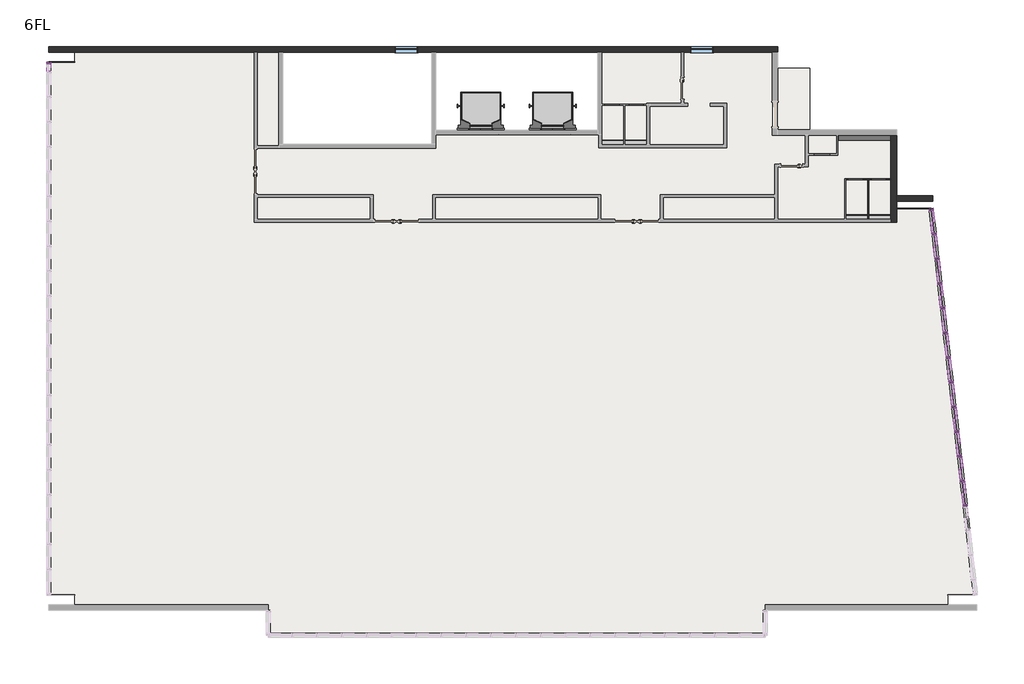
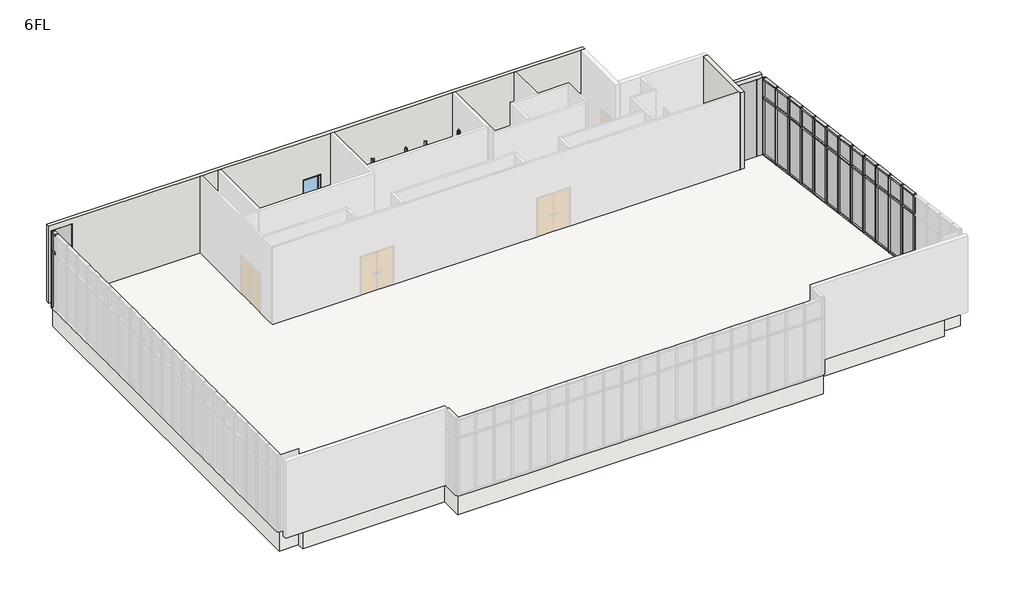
# One storey, part 4 of 4: 67 members, 28 plates, 8 proxies, 5 walls, 4 flow terminals, 2 slabs, 2 windows.
"""IFC4 building model written with IfcOpenShell, lengths in millimetres."""

from ifc_helpers import new_model, si_unit, frame, origin, place, context, project, spatial, polyline, outline, extrude, faceted_brep, transform, mapped, element, save
from components import specialty_equipment_d755c605, d150_h1500_9903e80e, w550_h2000_5054dc5e, w600_h2000_381ad4ff, flow_terminal_205c4ddb, member_70x150_cdd4dcf9, member_70x150_66cf63de, member_70x150_26475b18, member_70x150_ad4265bc, member_70x150_1b280ac3, member_70x150_76429c73, member_70x150_a15bb337, member_70x150_da24903b, plate_d1366ea1, plate_ab860a3c, plate_97be90fd, plate_28587fd3, plate_396bcf3c, w800_h1100_2b598eca

model = new_model("IFC4")

# Units and contexts
model_context = context("Model", 3, world=origin())
ifc_project = project(units=[si_unit("LENGTHUNIT", "METRE", prefix="MILLI")], contexts=[model_context])

# Site, building, storey
site = spatial("IfcSite", under=ifc_project)
building = spatial("IfcBuilding", under=site)
storey = spatial("IfcBuildingStorey", under=building, Name="6FL", Elevation=20600.0)

# Proxies
placement = place(None, origin())
specialty_equipment_shape = specialty_equipment_d755c605(model_context)
element("IfcBuildingElementProxy", 1, Name="エレベーター : 9人乗", ObjectType="エレベーター : 9人乗", at=placement, inside=storey, context=model_context, shape_type="MappedRepresentation", body=[
    mapped(specialty_equipment_shape, transform((-11220.9784025, 13649.6868987, 20600.0), x_axis=(1.0, 0.0, 0.0), y_axis=(0.0, 1.0, 0.0), z_axis=(0.0, 0.0, 1.0))),
])
element("IfcBuildingElementProxy", 2, Name="エレベーター : 9人乗", ObjectType="エレベーター : 9人乗", at=placement, inside=storey, context=model_context, shape_type="MappedRepresentation", body=[
    mapped(specialty_equipment_shape, transform((-13820.9784025, 13649.6868987, 20600.0), x_axis=(1.0, 0.0, 0.0), y_axis=(0.0, 1.0, 0.0), z_axis=(0.0, 0.0, 1.0))),
])
d150_h1500_shape = d150_h1500_9903e80e(model_context)
element("IfcBuildingElementProxy", 3, Name="r ライニング : D150 H1500", ObjectType="r ライニング : D150 H1500", at=placement, inside=storey, context=model_context, shape_type="MappedRepresentation", body=[
    mapped(d150_h1500_shape, transform((-736.1600971, 13521.6596024, 20600.0), x_axis=(1.0, 0.0, 0.0), y_axis=(0.0, 1.0, 0.0), z_axis=(0.0, 0.0, 1.0))),
])
w550_h2000_shape = w550_h2000_5054dc5e(model_context)
element("IfcBuildingElementProxy", 4, Name="r トイレブース扉 : W550 H2000", ObjectType="r トイレブース扉 : W550 H2000", at=placement, inside=storey, context=model_context, shape_type="MappedRepresentation", body=[
    mapped(w550_h2000_shape, transform((-8823.4784025, 14649.6868987, 20600.0), x_axis=(-1.0, 0.0, 0.0), y_axis=(0.0, -1.0, 0.0), z_axis=(0.0, 0.0, 1.0))),
])
element("IfcBuildingElementProxy", 5, Name="r トイレブース扉 : W550 H2000", ObjectType="r トイレブース扉 : W550 H2000", at=placement, inside=storey, context=model_context, shape_type="MappedRepresentation", body=[
    mapped(w550_h2000_shape, transform((-7940.9784025, 14649.6868987, 20600.0), x_axis=(-1.0, 0.0, 0.0), y_axis=(0.0, -1.0, 0.0), z_axis=(0.0, 0.0, 1.0))),
])
element("IfcBuildingElementProxy", 6, Name="r トイレブース扉 : W550 H2000", ObjectType="r トイレブース扉 : W550 H2000", at=placement, inside=storey, context=model_context, shape_type="MappedRepresentation", body=[
    mapped(w550_h2000_shape, transform((-5.9784025, 11949.6868987, 20600.0), x_axis=(-1.0, 0.0, 0.0), y_axis=(0.0, -1.0, 0.0), z_axis=(0.0, 0.0, 1.0))),
])
element("IfcBuildingElementProxy", 7, Name="r トイレブース扉 : W550 H2000", ObjectType="r トイレブース扉 : W550 H2000", at=placement, inside=storey, context=model_context, shape_type="MappedRepresentation", body=[
    mapped(w550_h2000_shape, transform((834.0215975, 11949.6868987, 20600.0), x_axis=(-1.0, 0.0, 0.0), y_axis=(0.0, -1.0, 0.0), z_axis=(0.0, 0.0, 1.0))),
])
w600_h2000_shape = w600_h2000_381ad4ff(model_context)
element("IfcBuildingElementProxy", 8, Name="r トイレブース扉 : W600 H2000", ObjectType="r トイレブース扉 : W600 H2000", at=placement, inside=storey, context=model_context, shape_type="MappedRepresentation", body=[
    mapped(w600_h2000_shape, transform((-1220.9784025, 12849.6868987, 20600.0), x_axis=(-1.0, 0.0, 0.0), y_axis=(0.0, -1.0, 0.0), z_axis=(0.0, 0.0, 1.0))),
])

# Flow terminals
flow_terminal_shape = flow_terminal_205c4ddb(model_context)
element("IfcFlowTerminal", 9, ObjectType="洋式便器 - ライニング付 - 2D : タイプ 1", at=placement, inside=storey, context=model_context, shape_type="MappedRepresentation", body=[
    mapped(flow_terminal_shape, transform((-9045.9784025, 13149.6868987, 20600.0), x_axis=(1.0, 0.0, 0.0), y_axis=(0.0, 1.0, 0.0), z_axis=(0.0, 0.0, 1.0))),
])
element("IfcFlowTerminal", 10, ObjectType="洋式便器 - ライニング付 - 2D : タイプ 1", at=placement, inside=storey, context=model_context, shape_type="MappedRepresentation", body=[
    mapped(flow_terminal_shape, transform((-8205.9784025, 13149.6868987, 20600.0), x_axis=(1.0, 0.0, 0.0), y_axis=(0.0, 1.0, 0.0), z_axis=(0.0, 0.0, 1.0))),
])
element("IfcFlowTerminal", 11, ObjectType="洋式便器 - ライニング付 - 2D : タイプ 1", at=placement, inside=storey, context=model_context, shape_type="MappedRepresentation", body=[
    mapped(flow_terminal_shape, transform((-210.9784025, 10449.6868987, 20600.0), x_axis=(1.0, 0.0, 0.0), y_axis=(0.0, 1.0, 0.0), z_axis=(0.0, 0.0, 1.0))),
])
element("IfcFlowTerminal", 12, ObjectType="洋式便器 - ライニング付 - 2D : タイプ 1", at=placement, inside=storey, context=model_context, shape_type="MappedRepresentation", body=[
    mapped(flow_terminal_shape, transform((629.0215975, 10449.6868987, 20600.0), x_axis=(1.0, 0.0, 0.0), y_axis=(0.0, 1.0, 0.0), z_axis=(0.0, 0.0, 1.0))),
])

# Members
member_70x150_shape = member_70x150_cdd4dcf9(model_context)
element("IfcMember", 13, ObjectType="長方形のマリオン : 70x150", at=placement, inside=storey, context=model_context, shape_type="MappedRepresentation", body=[
    mapped(member_70x150_shape, transform((3840.8083387, 134.7603905, 20600.0), x_axis=(0.11354659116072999, -0.9935326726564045, 0.0), y_axis=(-0.9935326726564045, -0.11354659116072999, 0.0), z_axis=(0.0, 0.0, -1.0))),
])
element("IfcMember", 14, ObjectType="長方形のマリオン : 70x150", at=placement, inside=storey, context=model_context, shape_type="MappedRepresentation", body=[
    mapped(member_70x150_shape, transform((3738.6164066, 1028.9397959, 20600.0), x_axis=(0.11354659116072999, -0.9935326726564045, 0.0), y_axis=(-0.9935326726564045, -0.11354659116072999, 0.0), z_axis=(0.0, 0.0, -1.0))),
])
element("IfcMember", 15, ObjectType="長方形のマリオン : 70x150", at=placement, inside=storey, context=model_context, shape_type="MappedRepresentation", body=[
    mapped(member_70x150_shape, transform((3636.4244746, 1923.1192013, 20600.0), x_axis=(0.11354659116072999, -0.9935326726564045, 0.0), y_axis=(-0.9935326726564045, -0.11354659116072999, 0.0), z_axis=(0.0, 0.0, -1.0))),
])
element("IfcMember", 16, ObjectType="長方形のマリオン : 70x150", at=placement, inside=storey, context=model_context, shape_type="MappedRepresentation", body=[
    mapped(member_70x150_shape, transform((3534.2325425, 2817.2986066, 20600.0), x_axis=(0.11354659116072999, -0.9935326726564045, 0.0), y_axis=(-0.9935326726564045, -0.11354659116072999, 0.0), z_axis=(0.0, 0.0, -1.0))),
])
element("IfcMember", 17, ObjectType="長方形のマリオン : 70x150", at=placement, inside=storey, context=model_context, shape_type="MappedRepresentation", body=[
    mapped(member_70x150_shape, transform((3432.0406105, 3711.478012, 20600.0), x_axis=(0.11354659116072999, -0.9935326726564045, 0.0), y_axis=(-0.9935326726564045, -0.11354659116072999, 0.0), z_axis=(0.0, 0.0, -1.0))),
])
element("IfcMember", 18, ObjectType="長方形のマリオン : 70x150", at=placement, inside=storey, context=model_context, shape_type="MappedRepresentation", body=[
    mapped(member_70x150_shape, transform((3329.8486784, 4605.6574174, 20600.0), x_axis=(0.11354659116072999, -0.9935326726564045, 0.0), y_axis=(-0.9935326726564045, -0.11354659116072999, 0.0), z_axis=(0.0, 0.0, -1.0))),
])
element("IfcMember", 19, ObjectType="長方形のマリオン : 70x150", at=placement, inside=storey, context=model_context, shape_type="MappedRepresentation", body=[
    mapped(member_70x150_shape, transform((3227.6567464, 5499.8368228, 20600.0), x_axis=(0.11354659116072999, -0.9935326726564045, 0.0), y_axis=(-0.9935326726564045, -0.11354659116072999, 0.0), z_axis=(0.0, 0.0, -1.0))),
])
element("IfcMember", 20, ObjectType="長方形のマリオン : 70x150", at=placement, inside=storey, context=model_context, shape_type="MappedRepresentation", body=[
    mapped(member_70x150_shape, transform((3125.4648143, 6394.0162282, 20600.0), x_axis=(0.11354659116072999, -0.9935326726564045, 0.0), y_axis=(-0.9935326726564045, -0.11354659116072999, 0.0), z_axis=(0.0, 0.0, -1.0))),
])
element("IfcMember", 21, ObjectType="長方形のマリオン : 70x150", at=placement, inside=storey, context=model_context, shape_type="MappedRepresentation", body=[
    mapped(member_70x150_shape, transform((3023.2728823, 7288.1956336, 20600.0), x_axis=(0.11354659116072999, -0.9935326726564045, 0.0), y_axis=(-0.9935326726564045, -0.11354659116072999, 0.0), z_axis=(0.0, 0.0, -1.0))),
])
element("IfcMember", 22, ObjectType="長方形のマリオン : 70x150", at=placement, inside=storey, context=model_context, shape_type="MappedRepresentation", body=[
    mapped(member_70x150_shape, transform((2921.0809503, 8182.375039, 20600.0), x_axis=(0.11354659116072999, -0.9935326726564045, 0.0), y_axis=(-0.9935326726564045, -0.11354659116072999, 0.0), z_axis=(0.0, 0.0, -1.0))),
])
element("IfcMember", 23, ObjectType="長方形のマリオン : 70x150", at=placement, inside=storey, context=model_context, shape_type="MappedRepresentation", body=[
    mapped(member_70x150_shape, transform((2818.8890182, 9076.5544444, 20600.0), x_axis=(0.11354659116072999, -0.9935326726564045, 0.0), y_axis=(-0.9935326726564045, -0.11354659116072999, 0.0), z_axis=(0.0, 0.0, -1.0))),
])
element("IfcMember", 24, ObjectType="長方形のマリオン : 70x150", at=placement, inside=storey, context=model_context, shape_type="MappedRepresentation", body=[
    mapped(member_70x150_shape, transform((2716.6970862, 9970.7338498, 20600.0), x_axis=(0.11354659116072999, -0.9935326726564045, 0.0), y_axis=(-0.9935326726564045, -0.11354659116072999, 0.0), z_axis=(0.0, 0.0, -1.0))),
])
member_70x150_2_shape = member_70x150_66cf63de(model_context)
element("IfcMember", 25, ObjectType="長方形のマリオン : 70x150", at=placement, inside=storey, context=model_context, shape_type="MappedRepresentation", body=[
    mapped(member_70x150_2_shape, transform((2618.4792848, 10830.1396116, 20600.0), x_axis=(0.0, 0.0, -1.0), y_axis=(-0.9935326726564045, -0.11354659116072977, 0.0), z_axis=(-0.11354659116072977, 0.9935326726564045, 0.0))),
])
element("IfcMember", 26, ObjectType="長方形のマリオン : 70x150", at=placement, inside=storey, context=model_context, shape_type="MappedRepresentation", body=[
    mapped(member_70x150_2_shape, transform((3844.7824693, 99.9867469, 20600.0), x_axis=(0.0, 0.0, -1.0), y_axis=(-0.9935326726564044, -0.11354659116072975, 0.0), z_axis=(-0.11354659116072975, 0.9935326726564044, 0.0))),
])
element("IfcMember", 27, ObjectType="長方形のマリオン : 70x150", at=placement, inside=storey, context=model_context, shape_type="MappedRepresentation", body=[
    mapped(member_70x150_2_shape, transform((3742.5905373, 994.1661523, 20600.0), x_axis=(0.0, 0.0, -1.0), y_axis=(-0.9935326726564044, -0.1135465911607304, 0.0), z_axis=(-0.11354659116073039, 0.9935326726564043, 0.0))),
])
element("IfcMember", 28, ObjectType="長方形のマリオン : 70x150", at=placement, inside=storey, context=model_context, shape_type="MappedRepresentation", body=[
    mapped(member_70x150_2_shape, transform((3640.3986053, 1888.3455577, 20600.0), x_axis=(0.0, 0.0, -1.0), y_axis=(-0.9935326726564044, -0.1135465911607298, 0.0), z_axis=(-0.1135465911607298, 0.9935326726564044, 0.0))),
])
element("IfcMember", 29, ObjectType="長方形のマリオン : 70x150", at=placement, inside=storey, context=model_context, shape_type="MappedRepresentation", body=[
    mapped(member_70x150_2_shape, transform((3538.2066732, 2782.5249631, 20600.0), x_axis=(0.0, 0.0, -1.0), y_axis=(-0.9935326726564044, -0.1135465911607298, 0.0), z_axis=(-0.1135465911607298, 0.9935326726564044, 0.0))),
])
element("IfcMember", 30, ObjectType="長方形のマリオン : 70x150", at=placement, inside=storey, context=model_context, shape_type="MappedRepresentation", body=[
    mapped(member_70x150_2_shape, transform((3436.0147412, 3676.7043685, 20600.0), x_axis=(0.0, 0.0, -1.0), y_axis=(-0.9935326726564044, -0.11354659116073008, 0.0), z_axis=(-0.11354659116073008, 0.9935326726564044, 0.0))),
])
element("IfcMember", 31, ObjectType="長方形のマリオン : 70x150", at=placement, inside=storey, context=model_context, shape_type="MappedRepresentation", body=[
    mapped(member_70x150_2_shape, transform((3333.8228091, 4570.8837739, 20600.0), x_axis=(0.0, 0.0, -1.0), y_axis=(-0.9935326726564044, -0.11354659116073, 0.0), z_axis=(-0.11354659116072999, 0.9935326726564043, 0.0))),
])
element("IfcMember", 32, ObjectType="長方形のマリオン : 70x150", at=placement, inside=storey, context=model_context, shape_type="MappedRepresentation", body=[
    mapped(member_70x150_2_shape, transform((3231.6308771, 5465.0631793, 20600.0), x_axis=(0.0, 0.0, -1.0), y_axis=(-0.9935326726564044, -0.11354659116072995, 0.0), z_axis=(-0.11354659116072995, 0.9935326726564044, 0.0))),
])
element("IfcMember", 33, ObjectType="長方形のマリオン : 70x150", at=placement, inside=storey, context=model_context, shape_type="MappedRepresentation", body=[
    mapped(member_70x150_2_shape, transform((3129.438945, 6359.2425847, 20600.0), x_axis=(0.0, 0.0, -1.0), y_axis=(-0.9935326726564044, -0.11354659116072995, 0.0), z_axis=(-0.11354659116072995, 0.9935326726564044, 0.0))),
])
element("IfcMember", 34, ObjectType="長方形のマリオン : 70x150", at=placement, inside=storey, context=model_context, shape_type="MappedRepresentation", body=[
    mapped(member_70x150_2_shape, transform((3027.247013, 7253.4219901, 20600.0), x_axis=(0.0, 0.0, -1.0), y_axis=(-0.9935326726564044, -0.11354659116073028, 0.0), z_axis=(-0.11354659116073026, 0.9935326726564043, 0.0))),
])
element("IfcMember", 35, ObjectType="長方形のマリオン : 70x150", at=placement, inside=storey, context=model_context, shape_type="MappedRepresentation", body=[
    mapped(member_70x150_2_shape, transform((2925.0550809, 8147.6013954, 20600.0), x_axis=(0.0, 0.0, -1.0), y_axis=(-0.9935326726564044, -0.1135465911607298, 0.0), z_axis=(-0.1135465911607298, 0.9935326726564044, 0.0))),
])
element("IfcMember", 36, ObjectType="長方形のマリオン : 70x150", at=placement, inside=storey, context=model_context, shape_type="MappedRepresentation", body=[
    mapped(member_70x150_2_shape, transform((2822.8631489, 9041.7808008, 20600.0), x_axis=(0.0, 0.0, -1.0), y_axis=(-0.9935326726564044, -0.11354659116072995, 0.0), z_axis=(-0.11354659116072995, 0.9935326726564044, 0.0))),
])
element("IfcMember", 37, ObjectType="長方形のマリオン : 70x150", at=placement, inside=storey, context=model_context, shape_type="MappedRepresentation", body=[
    mapped(member_70x150_2_shape, transform((2720.6712169, 9935.9602062, 20600.0), x_axis=(0.0, 0.0, -1.0), y_axis=(-0.9935326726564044, -0.11354659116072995, 0.0), z_axis=(-0.11354659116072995, 0.9935326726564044, 0.0))),
])
element("IfcMember", 38, ObjectType="長方形のマリオン : 70x150", at=placement, inside=storey, context=model_context, shape_type="MappedRepresentation", body=[
    mapped(member_70x150_2_shape, transform((3836.834208, 169.534034, 24600.0), x_axis=(0.0, 0.0, 1.0), y_axis=(-0.9935326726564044, -0.11354659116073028, 0.0), z_axis=(0.11354659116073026, -0.9935326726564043, 0.0))),
])
element("IfcMember", 39, ObjectType="長方形のマリオン : 70x150", at=placement, inside=storey, context=model_context, shape_type="MappedRepresentation", body=[
    mapped(member_70x150_2_shape, transform((3734.6422759, 1063.7134394, 24600.0), x_axis=(0.0, 0.0, 1.0), y_axis=(-0.9935326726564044, -0.11354659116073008, 0.0), z_axis=(0.11354659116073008, -0.9935326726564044, 0.0))),
])
element("IfcMember", 40, ObjectType="長方形のマリオン : 70x150", at=placement, inside=storey, context=model_context, shape_type="MappedRepresentation", body=[
    mapped(member_70x150_2_shape, transform((3632.4503439, 1957.8928448, 24600.0), x_axis=(0.0, 0.0, 1.0), y_axis=(-0.9935326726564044, -0.11354659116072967, 0.0), z_axis=(0.11354659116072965, -0.9935326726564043, 0.0))),
])
element("IfcMember", 41, ObjectType="長方形のマリオン : 70x150", at=placement, inside=storey, context=model_context, shape_type="MappedRepresentation", body=[
    mapped(member_70x150_2_shape, transform((3530.2584118, 2852.0722502, 24600.0), x_axis=(0.0, 0.0, 1.0), y_axis=(-0.9935326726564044, -0.11354659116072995, 0.0), z_axis=(0.11354659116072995, -0.9935326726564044, 0.0))),
])
element("IfcMember", 42, ObjectType="長方形のマリオン : 70x150", at=placement, inside=storey, context=model_context, shape_type="MappedRepresentation", body=[
    mapped(member_70x150_2_shape, transform((3428.0664798, 3746.2516556, 24600.0), x_axis=(0.0, 0.0, 1.0), y_axis=(-0.9935326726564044, -0.11354659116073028, 0.0), z_axis=(0.11354659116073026, -0.9935326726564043, 0.0))),
])
element("IfcMember", 43, ObjectType="長方形のマリオン : 70x150", at=placement, inside=storey, context=model_context, shape_type="MappedRepresentation", body=[
    mapped(member_70x150_2_shape, transform((3325.8745477, 4640.431061, 24600.0), x_axis=(0.0, 0.0, 1.0), y_axis=(-0.9935326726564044, -0.11354659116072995, 0.0), z_axis=(0.11354659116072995, -0.9935326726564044, 0.0))),
])
element("IfcMember", 44, ObjectType="長方形のマリオン : 70x150", at=placement, inside=storey, context=model_context, shape_type="MappedRepresentation", body=[
    mapped(member_70x150_2_shape, transform((3223.6826157, 5534.6104664, 24600.0), x_axis=(0.0, 0.0, 1.0), y_axis=(-0.9935326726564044, -0.11354659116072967, 0.0), z_axis=(0.11354659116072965, -0.9935326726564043, 0.0))),
])
element("IfcMember", 45, ObjectType="長方形のマリオン : 70x150", at=placement, inside=storey, context=model_context, shape_type="MappedRepresentation", body=[
    mapped(member_70x150_2_shape, transform((3121.4906836, 6428.7898717, 24600.0), x_axis=(0.0, 0.0, 1.0), y_axis=(-0.9935326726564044, -0.1135465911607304, 0.0), z_axis=(0.11354659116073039, -0.9935326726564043, 0.0))),
])
element("IfcMember", 46, ObjectType="長方形のマリオン : 70x150", at=placement, inside=storey, context=model_context, shape_type="MappedRepresentation", body=[
    mapped(member_70x150_2_shape, transform((3019.2987516, 7322.9692771, 24600.0), x_axis=(0.0, 0.0, 1.0), y_axis=(-0.9935326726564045, -0.11354659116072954, 0.0), z_axis=(0.11354659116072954, -0.9935326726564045, 0.0))),
])
element("IfcMember", 47, ObjectType="長方形のマリオン : 70x150", at=placement, inside=storey, context=model_context, shape_type="MappedRepresentation", body=[
    mapped(member_70x150_2_shape, transform((2917.1068196, 8217.1486825, 24600.0), x_axis=(0.0, 0.0, 1.0), y_axis=(-0.9935326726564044, -0.11354659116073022, 0.0), z_axis=(0.11354659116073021, -0.9935326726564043, 0.0))),
])
element("IfcMember", 48, ObjectType="長方形のマリオン : 70x150", at=placement, inside=storey, context=model_context, shape_type="MappedRepresentation", body=[
    mapped(member_70x150_2_shape, transform((2814.9148875, 9111.3280879, 24600.0), x_axis=(0.0, 0.0, 1.0), y_axis=(-0.9935326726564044, -0.11354659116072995, 0.0), z_axis=(0.11354659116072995, -0.9935326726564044, 0.0))),
])
element("IfcMember", 49, ObjectType="長方形のマリオン : 70x150", at=placement, inside=storey, context=model_context, shape_type="MappedRepresentation", body=[
    mapped(member_70x150_2_shape, transform((2712.7229555, 10005.5074933, 24600.0), x_axis=(0.0, 0.0, 1.0), y_axis=(-0.9935326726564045, -0.11354659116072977, 0.0), z_axis=(0.11354659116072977, -0.9935326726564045, 0.0))),
])
member_70x150_3_shape = member_70x150_26475b18(model_context)
element("IfcMember", 50, ObjectType="長方形のマリオン : 70x150", at=placement, inside=storey, context=model_context, shape_type="MappedRepresentation", body=[
    mapped(member_70x150_3_shape, transform((3534.2325425, 2817.2986066, 23600.0), x_axis=(0.11354659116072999, -0.9935326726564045, 0.0), y_axis=(-0.9935326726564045, -0.11354659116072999, 0.0), z_axis=(0.0, 0.0, -1.0))),
])
element("IfcMember", 51, ObjectType="長方形のマリオン : 70x150", at=placement, inside=storey, context=model_context, shape_type="MappedRepresentation", body=[
    mapped(member_70x150_3_shape, transform((3636.4244746, 1923.1192013, 23600.0), x_axis=(0.11354659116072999, -0.9935326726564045, 0.0), y_axis=(-0.9935326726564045, -0.11354659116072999, 0.0), z_axis=(0.0, 0.0, -1.0))),
])
element("IfcMember", 52, ObjectType="長方形のマリオン : 70x150", at=placement, inside=storey, context=model_context, shape_type="MappedRepresentation", body=[
    mapped(member_70x150_3_shape, transform((3738.6164066, 1028.9397959, 23600.0), x_axis=(0.11354659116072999, -0.9935326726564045, 0.0), y_axis=(-0.9935326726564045, -0.11354659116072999, 0.0), z_axis=(0.0, 0.0, -1.0))),
])
element("IfcMember", 53, ObjectType="長方形のマリオン : 70x150", at=placement, inside=storey, context=model_context, shape_type="MappedRepresentation", body=[
    mapped(member_70x150_3_shape, transform((3840.8083387, 134.7603905, 23600.0), x_axis=(0.11354659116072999, -0.9935326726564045, 0.0), y_axis=(-0.9935326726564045, -0.11354659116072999, 0.0), z_axis=(0.0, 0.0, -1.0))),
])
element("IfcMember", 54, ObjectType="長方形のマリオン : 70x150", at=placement, inside=storey, context=model_context, shape_type="MappedRepresentation", body=[
    mapped(member_70x150_3_shape, transform((3432.0406105, 3711.478012, 23600.0), x_axis=(0.11354659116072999, -0.9935326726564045, 0.0), y_axis=(-0.9935326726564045, -0.11354659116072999, 0.0), z_axis=(0.0, 0.0, -1.0))),
])
element("IfcMember", 55, ObjectType="長方形のマリオン : 70x150", at=placement, inside=storey, context=model_context, shape_type="MappedRepresentation", body=[
    mapped(member_70x150_3_shape, transform((3329.8486784, 4605.6574174, 23600.0), x_axis=(0.11354659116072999, -0.9935326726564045, 0.0), y_axis=(-0.9935326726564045, -0.11354659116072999, 0.0), z_axis=(0.0, 0.0, -1.0))),
])
element("IfcMember", 56, ObjectType="長方形のマリオン : 70x150", at=placement, inside=storey, context=model_context, shape_type="MappedRepresentation", body=[
    mapped(member_70x150_3_shape, transform((3227.6567464, 5499.8368228, 23600.0), x_axis=(0.11354659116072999, -0.9935326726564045, 0.0), y_axis=(-0.9935326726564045, -0.11354659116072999, 0.0), z_axis=(0.0, 0.0, -1.0))),
])
element("IfcMember", 57, ObjectType="長方形のマリオン : 70x150", at=placement, inside=storey, context=model_context, shape_type="MappedRepresentation", body=[
    mapped(member_70x150_3_shape, transform((3125.4648143, 6394.0162282, 23600.0), x_axis=(0.11354659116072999, -0.9935326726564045, 0.0), y_axis=(-0.9935326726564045, -0.11354659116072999, 0.0), z_axis=(0.0, 0.0, -1.0))),
])
element("IfcMember", 58, ObjectType="長方形のマリオン : 70x150", at=placement, inside=storey, context=model_context, shape_type="MappedRepresentation", body=[
    mapped(member_70x150_3_shape, transform((3023.2728823, 7288.1956336, 23600.0), x_axis=(0.11354659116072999, -0.9935326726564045, 0.0), y_axis=(-0.9935326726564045, -0.11354659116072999, 0.0), z_axis=(0.0, 0.0, -1.0))),
])
element("IfcMember", 59, ObjectType="長方形のマリオン : 70x150", at=placement, inside=storey, context=model_context, shape_type="MappedRepresentation", body=[
    mapped(member_70x150_3_shape, transform((2921.0809503, 8182.375039, 23600.0), x_axis=(0.11354659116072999, -0.9935326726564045, 0.0), y_axis=(-0.9935326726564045, -0.11354659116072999, 0.0), z_axis=(0.0, 0.0, -1.0))),
])
element("IfcMember", 60, ObjectType="長方形のマリオン : 70x150", at=placement, inside=storey, context=model_context, shape_type="MappedRepresentation", body=[
    mapped(member_70x150_3_shape, transform((2818.8890182, 9076.5544444, 23600.0), x_axis=(0.11354659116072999, -0.9935326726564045, 0.0), y_axis=(-0.9935326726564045, -0.11354659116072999, 0.0), z_axis=(0.0, 0.0, -1.0))),
])
element("IfcMember", 61, ObjectType="長方形のマリオン : 70x150", at=placement, inside=storey, context=model_context, shape_type="MappedRepresentation", body=[
    mapped(member_70x150_3_shape, transform((2716.6970862, 9970.7338498, 23600.0), x_axis=(0.11354659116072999, -0.9935326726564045, 0.0), y_axis=(-0.9935326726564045, -0.11354659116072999, 0.0), z_axis=(0.0, 0.0, -1.0))),
])
member_70x150_4_shape = member_70x150_ad4265bc(model_context)
element("IfcMember", 62, ObjectType="長方形のマリオン : 70x150", at=placement, inside=storey, context=model_context, shape_type="MappedRepresentation", body=[
    mapped(member_70x150_4_shape, transform((3223.6826157, 5534.6104664, 23600.0), x_axis=(0.0, 0.0, 1.0), y_axis=(-0.9935326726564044, -0.11354659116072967, 0.0), z_axis=(0.11354659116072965, -0.9935326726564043, 0.0))),
])
element("IfcMember", 63, ObjectType="長方形のマリオン : 70x150", at=placement, inside=storey, context=model_context, shape_type="MappedRepresentation", body=[
    mapped(member_70x150_4_shape, transform((3121.4906836, 6428.7898717, 23600.0), x_axis=(0.0, 0.0, 1.0), y_axis=(-0.9935326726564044, -0.1135465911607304, 0.0), z_axis=(0.11354659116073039, -0.9935326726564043, 0.0))),
])
element("IfcMember", 64, ObjectType="長方形のマリオン : 70x150", at=placement, inside=storey, context=model_context, shape_type="MappedRepresentation", body=[
    mapped(member_70x150_4_shape, transform((3019.2987516, 7322.9692771, 23600.0), x_axis=(0.0, 0.0, 1.0), y_axis=(-0.9935326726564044, -0.11354659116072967, 0.0), z_axis=(0.11354659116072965, -0.9935326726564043, 0.0))),
])
element("IfcMember", 65, ObjectType="長方形のマリオン : 70x150", at=placement, inside=storey, context=model_context, shape_type="MappedRepresentation", body=[
    mapped(member_70x150_4_shape, transform((2917.1068196, 8217.1486825, 23600.0), x_axis=(0.0, 0.0, 1.0), y_axis=(-0.9935326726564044, -0.11354659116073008, 0.0), z_axis=(0.11354659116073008, -0.9935326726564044, 0.0))),
])
element("IfcMember", 66, ObjectType="長方形のマリオン : 70x150", at=placement, inside=storey, context=model_context, shape_type="MappedRepresentation", body=[
    mapped(member_70x150_4_shape, transform((2814.9148875, 9111.3280879, 23600.0), x_axis=(0.0, 0.0, 1.0), y_axis=(-0.9935326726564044, -0.11354659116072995, 0.0), z_axis=(0.11354659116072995, -0.9935326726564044, 0.0))),
])
element("IfcMember", 67, ObjectType="長方形のマリオン : 70x150", at=placement, inside=storey, context=model_context, shape_type="MappedRepresentation", body=[
    mapped(member_70x150_4_shape, transform((2712.7229555, 10005.5074933, 23600.0), x_axis=(0.0, 0.0, 1.0), y_axis=(-0.9935326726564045, -0.11354659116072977, 0.0), z_axis=(0.11354659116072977, -0.9935326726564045, 0.0))),
])
element("IfcMember", 68, ObjectType="長方形のマリオン : 70x150", at=placement, inside=storey, context=model_context, shape_type="MappedRepresentation", body=[
    mapped(member_70x150_4_shape, transform((3836.834208, 169.534034, 23600.0), x_axis=(0.0, 0.0, 1.0), y_axis=(-0.9935326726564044, -0.11354659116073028, 0.0), z_axis=(0.11354659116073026, -0.9935326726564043, 0.0))),
])
element("IfcMember", 69, ObjectType="長方形のマリオン : 70x150", at=placement, inside=storey, context=model_context, shape_type="MappedRepresentation", body=[
    mapped(member_70x150_4_shape, transform((3734.6422759, 1063.7134394, 23600.0), x_axis=(0.0, 0.0, 1.0), y_axis=(-0.9935326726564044, -0.11354659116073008, 0.0), z_axis=(0.11354659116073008, -0.9935326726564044, 0.0))),
])
element("IfcMember", 70, ObjectType="長方形のマリオン : 70x150", at=placement, inside=storey, context=model_context, shape_type="MappedRepresentation", body=[
    mapped(member_70x150_4_shape, transform((3632.4503439, 1957.8928448, 23600.0), x_axis=(0.0, 0.0, 1.0), y_axis=(-0.9935326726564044, -0.11354659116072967, 0.0), z_axis=(0.11354659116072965, -0.9935326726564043, 0.0))),
])
element("IfcMember", 71, ObjectType="長方形のマリオン : 70x150", at=placement, inside=storey, context=model_context, shape_type="MappedRepresentation", body=[
    mapped(member_70x150_4_shape, transform((3530.2584118, 2852.0722502, 23600.0), x_axis=(0.0, 0.0, 1.0), y_axis=(-0.9935326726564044, -0.11354659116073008, 0.0), z_axis=(0.11354659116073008, -0.9935326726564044, 0.0))),
])
element("IfcMember", 72, ObjectType="長方形のマリオン : 70x150", at=placement, inside=storey, context=model_context, shape_type="MappedRepresentation", body=[
    mapped(member_70x150_4_shape, transform((3428.0664798, 3746.2516556, 23600.0), x_axis=(0.0, 0.0, 1.0), y_axis=(-0.9935326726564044, -0.11354659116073, 0.0), z_axis=(0.11354659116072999, -0.9935326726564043, 0.0))),
])
element("IfcMember", 73, ObjectType="長方形のマリオン : 70x150", at=placement, inside=storey, context=model_context, shape_type="MappedRepresentation", body=[
    mapped(member_70x150_4_shape, transform((3325.8745477, 4640.431061, 23600.0), x_axis=(0.0, 0.0, 1.0), y_axis=(-0.9935326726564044, -0.11354659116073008, 0.0), z_axis=(0.11354659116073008, -0.9935326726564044, 0.0))),
])
member_70x150_5_shape = member_70x150_1b280ac3(model_context)
element("IfcMember", 74, ObjectType="長方形のマリオン : 70x150", at=placement, inside=storey, context=model_context, shape_type="MappedRepresentation", body=[
    mapped(member_70x150_5_shape, transform((-29345.9784025, 16199.6868987, 20600.0), x_axis=(0.0, 1.0, 0.0), y_axis=(1.0, 0.0, 0.0), z_axis=(0.0, 0.0, -1.0))),
])
member_70x150_6_shape = member_70x150_76429c73(model_context)
element("IfcMember", 75, ObjectType="長方形のマリオン : 70x150", at=placement, inside=storey, context=model_context, shape_type="MappedRepresentation", body=[
    mapped(member_70x150_6_shape, transform((2610.5310234, 10899.6868987, 24600.0), x_axis=(-0.11354659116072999, 0.9935326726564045, 0.0), y_axis=(-0.9935326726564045, -0.11354659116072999, 0.0), z_axis=(0.0, 0.0, 1.0))),
])
element("IfcMember", 76, ObjectType="長方形のマリオン : 70x150", at=placement, inside=storey, context=model_context, shape_type="MappedRepresentation", body=[
    mapped(member_70x150_6_shape, transform((-29345.9784025, 16199.6868987, 23600.0), x_axis=(0.0, 1.0, 0.0), y_axis=(1.0, 0.0, 0.0), z_axis=(0.0, 0.0, -1.0))),
])
element("IfcMember", 77, ObjectType="長方形のマリオン : 70x150", at=placement, inside=storey, context=model_context, shape_type="MappedRepresentation", body=[
    mapped(member_70x150_5_shape, transform((2610.5310234, 10899.6868987, 23600.0), x_axis=(-0.11354659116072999, 0.9935326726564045, 0.0), y_axis=(-0.9935326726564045, -0.11354659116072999, 0.0), z_axis=(0.0, 0.0, 1.0))),
])
member_70x150_7_shape = member_70x150_a15bb337(model_context)
element("IfcMember", 78, ObjectType="長方形のマリオン : 70x150", at=placement, inside=storey, context=model_context, shape_type="MappedRepresentation", body=[
    mapped(member_70x150_7_shape, transform((-29345.9784025, 16129.6868987, 24600.0), x_axis=(0.0, 0.0, 1.0), y_axis=(1.0, 0.0, 0.0), z_axis=(0.0, 1.0, 0.0))),
])
member_70x150_8_shape = member_70x150_da24903b(model_context)
element("IfcMember", 79, ObjectType="長方形のマリオン : 70x150", at=placement, inside=storey, context=model_context, shape_type="MappedRepresentation", body=[
    mapped(member_70x150_8_shape, transform((-29345.9784025, 16129.6868987, 23600.0), x_axis=(0.0, 0.0, 1.0), y_axis=(1.0, 0.0, 0.0), z_axis=(0.0, 1.0, 0.0))),
])

# Plates
plate_shape = plate_d1366ea1(model_context)
element("IfcPlate", 80, ObjectType="システム パネル : 標準", at=placement, inside=storey, context=model_context, shape_type="MappedRepresentation", body=[
    mapped(plate_shape, transform((1804.0215975, 10899.6868987, 20600.0), x_axis=(1.0, 0.0, 0.0), y_axis=(0.0, 1.0, 0.0), z_axis=(0.0, 0.0, 1.0))),
])
element("IfcPlate", 81, ObjectType="システム パネル : 標準", at=placement, inside=storey, context=model_context, shape_type="MappedRepresentation", body=[
    mapped(plate_shape, transform((-28895.9784025, 16199.6868987, 20600.0), x_axis=(1.0, 0.0, 0.0), y_axis=(0.0, 1.0, 0.0), z_axis=(0.0, 0.0, 1.0))),
])
plate_2_shape = plate_ab860a3c(model_context)
element("IfcPlate", 82, ObjectType="システム パネル : 標準", at=placement, inside=storey, context=model_context, shape_type="MappedRepresentation", body=[
    mapped(plate_2_shape, transform((-28420.9784025, 16199.6868987, 20600.0), x_axis=(1.0, 0.0, 0.0), y_axis=(0.0, 1.0, 0.0), z_axis=(0.0, 0.0, 1.0))),
])
plate_3_shape = plate_97be90fd(model_context)
element("IfcPlate", 83, ObjectType="システム パネル : 標準", at=placement, inside=storey, context=model_context, shape_type="MappedRepresentation", body=[
    mapped(plate_3_shape, transform((2432.2763105, 10899.6868987, 20600.0), x_axis=(1.0, 0.0, 0.0), y_axis=(0.0, 1.0, 0.0), z_axis=(0.0, 0.0, 1.0))),
])
plate_4_shape = plate_28587fd3(model_context)
element("IfcPlate", 84, ObjectType="システム パネル : 標準", at=placement, inside=storey, context=model_context, shape_type="MappedRepresentation", body=[
    mapped(plate_4_shape, transform((2665.6011201, 10417.8235525, 20670.0), x_axis=(0.11354659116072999, -0.9935326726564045, 0.0), y_axis=(0.9935326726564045, 0.11354659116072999, 0.0), z_axis=(0.0, 0.0, 1.0))),
])
element("IfcPlate", 85, ObjectType="システム パネル : 標準", at=placement, inside=storey, context=model_context, shape_type="MappedRepresentation", body=[
    mapped(plate_4_shape, transform((2767.7930522, 9523.6441471, 20670.0), x_axis=(0.11354659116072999, -0.9935326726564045, 0.0), y_axis=(0.9935326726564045, 0.11354659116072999, 0.0), z_axis=(0.0, 0.0, 1.0))),
])
element("IfcPlate", 86, ObjectType="システム パネル : 標準", at=placement, inside=storey, context=model_context, shape_type="MappedRepresentation", body=[
    mapped(plate_4_shape, transform((2869.9849842, 8629.4647417, 20670.0), x_axis=(0.11354659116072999, -0.9935326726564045, 0.0), y_axis=(0.9935326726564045, 0.11354659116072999, 0.0), z_axis=(0.0, 0.0, 1.0))),
])
element("IfcPlate", 87, ObjectType="システム パネル : 標準", at=placement, inside=storey, context=model_context, shape_type="MappedRepresentation", body=[
    mapped(plate_4_shape, transform((2972.1769163, 7735.2853363, 20670.0), x_axis=(0.11354659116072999, -0.9935326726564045, 0.0), y_axis=(0.9935326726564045, 0.11354659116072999, 0.0), z_axis=(0.0, 0.0, 1.0))),
])
element("IfcPlate", 88, ObjectType="システム パネル : 標準", at=placement, inside=storey, context=model_context, shape_type="MappedRepresentation", body=[
    mapped(plate_4_shape, transform((3074.3688483, 6841.1059309, 20670.0), x_axis=(0.11354659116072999, -0.9935326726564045, 0.0), y_axis=(0.9935326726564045, 0.11354659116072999, 0.0), z_axis=(0.0, 0.0, 1.0))),
])
element("IfcPlate", 89, ObjectType="システム パネル : 標準", at=placement, inside=storey, context=model_context, shape_type="MappedRepresentation", body=[
    mapped(plate_4_shape, transform((3176.5607804, 5946.9265255, 20670.0), x_axis=(0.11354659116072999, -0.9935326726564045, 0.0), y_axis=(0.9935326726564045, 0.11354659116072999, 0.0), z_axis=(0.0, 0.0, 1.0))),
])
element("IfcPlate", 90, ObjectType="システム パネル : 標準", at=placement, inside=storey, context=model_context, shape_type="MappedRepresentation", body=[
    mapped(plate_4_shape, transform((3278.7527124, 5052.7471201, 20670.0), x_axis=(0.11354659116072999, -0.9935326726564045, 0.0), y_axis=(0.9935326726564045, 0.11354659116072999, 0.0), z_axis=(0.0, 0.0, 1.0))),
])
element("IfcPlate", 91, ObjectType="システム パネル : 標準", at=placement, inside=storey, context=model_context, shape_type="MappedRepresentation", body=[
    mapped(plate_4_shape, transform((3380.9446445, 4158.5677147, 20670.0), x_axis=(0.11354659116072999, -0.9935326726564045, 0.0), y_axis=(0.9935326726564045, 0.11354659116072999, 0.0), z_axis=(0.0, 0.0, 1.0))),
])
element("IfcPlate", 92, ObjectType="システム パネル : 標準", at=placement, inside=storey, context=model_context, shape_type="MappedRepresentation", body=[
    mapped(plate_4_shape, transform((3483.1365765, 3264.3883093, 20670.0), x_axis=(0.11354659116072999, -0.9935326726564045, 0.0), y_axis=(0.9935326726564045, 0.11354659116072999, 0.0), z_axis=(0.0, 0.0, 1.0))),
])
element("IfcPlate", 93, ObjectType="システム パネル : 標準", at=placement, inside=storey, context=model_context, shape_type="MappedRepresentation", body=[
    mapped(plate_4_shape, transform((3585.3285085, 2370.2089039, 20670.0), x_axis=(0.11354659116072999, -0.9935326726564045, 0.0), y_axis=(0.9935326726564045, 0.11354659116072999, 0.0), z_axis=(0.0, 0.0, 1.0))),
])
element("IfcPlate", 94, ObjectType="システム パネル : 標準", at=placement, inside=storey, context=model_context, shape_type="MappedRepresentation", body=[
    mapped(plate_4_shape, transform((3687.5204406, 1476.0294986, 20670.0), x_axis=(0.11354659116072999, -0.9935326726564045, 0.0), y_axis=(0.9935326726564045, 0.11354659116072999, 0.0), z_axis=(0.0, 0.0, 1.0))),
])
element("IfcPlate", 95, ObjectType="システム パネル : 標準", at=placement, inside=storey, context=model_context, shape_type="MappedRepresentation", body=[
    mapped(plate_4_shape, transform((3789.7123726, 581.8500932, 20670.0), x_axis=(0.11354659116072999, -0.9935326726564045, 0.0), y_axis=(0.9935326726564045, 0.11354659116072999, 0.0), z_axis=(0.0, 0.0, 1.0))),
])
plate_5_shape = plate_396bcf3c(model_context)
element("IfcPlate", 96, ObjectType="システム パネル : 標準", at=placement, inside=storey, context=model_context, shape_type="MappedRepresentation", body=[
    mapped(plate_5_shape, transform((2665.6011201, 10417.8235525, 23635.0), x_axis=(0.11354659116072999, -0.9935326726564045, 0.0), y_axis=(0.9935326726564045, 0.11354659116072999, 0.0), z_axis=(0.0, 0.0, 1.0))),
])
element("IfcPlate", 97, ObjectType="システム パネル : 標準", at=placement, inside=storey, context=model_context, shape_type="MappedRepresentation", body=[
    mapped(plate_5_shape, transform((2767.7930522, 9523.6441471, 23635.0), x_axis=(0.11354659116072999, -0.9935326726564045, 0.0), y_axis=(0.9935326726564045, 0.11354659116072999, 0.0), z_axis=(0.0, 0.0, 1.0))),
])
element("IfcPlate", 98, ObjectType="システム パネル : 標準", at=placement, inside=storey, context=model_context, shape_type="MappedRepresentation", body=[
    mapped(plate_5_shape, transform((2869.9849842, 8629.4647417, 23635.0), x_axis=(0.11354659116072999, -0.9935326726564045, 0.0), y_axis=(0.9935326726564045, 0.11354659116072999, 0.0), z_axis=(0.0, 0.0, 1.0))),
])
element("IfcPlate", 99, ObjectType="システム パネル : 標準", at=placement, inside=storey, context=model_context, shape_type="MappedRepresentation", body=[
    mapped(plate_5_shape, transform((2972.1769163, 7735.2853363, 23635.0), x_axis=(0.11354659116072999, -0.9935326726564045, 0.0), y_axis=(0.9935326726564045, 0.11354659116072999, 0.0), z_axis=(0.0, 0.0, 1.0))),
])
element("IfcPlate", 100, ObjectType="システム パネル : 標準", at=placement, inside=storey, context=model_context, shape_type="MappedRepresentation", body=[
    mapped(plate_5_shape, transform((3074.3688483, 6841.1059309, 23635.0), x_axis=(0.11354659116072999, -0.9935326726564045, 0.0), y_axis=(0.9935326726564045, 0.11354659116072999, 0.0), z_axis=(0.0, 0.0, 1.0))),
])
element("IfcPlate", 101, ObjectType="システム パネル : 標準", at=placement, inside=storey, context=model_context, shape_type="MappedRepresentation", body=[
    mapped(plate_5_shape, transform((3176.5607804, 5946.9265255, 23635.0), x_axis=(0.11354659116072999, -0.9935326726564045, 0.0), y_axis=(0.9935326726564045, 0.11354659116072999, 0.0), z_axis=(0.0, 0.0, 1.0))),
])
element("IfcPlate", 102, ObjectType="システム パネル : 標準", at=placement, inside=storey, context=model_context, shape_type="MappedRepresentation", body=[
    mapped(plate_5_shape, transform((3278.7527124, 5052.7471201, 23635.0), x_axis=(0.11354659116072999, -0.9935326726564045, 0.0), y_axis=(0.9935326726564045, 0.11354659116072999, 0.0), z_axis=(0.0, 0.0, 1.0))),
])
element("IfcPlate", 103, ObjectType="システム パネル : 標準", at=placement, inside=storey, context=model_context, shape_type="MappedRepresentation", body=[
    mapped(plate_5_shape, transform((3380.9446445, 4158.5677147, 23635.0), x_axis=(0.11354659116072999, -0.9935326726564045, 0.0), y_axis=(0.9935326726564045, 0.11354659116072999, 0.0), z_axis=(0.0, 0.0, 1.0))),
])
element("IfcPlate", 104, ObjectType="システム パネル : 標準", at=placement, inside=storey, context=model_context, shape_type="MappedRepresentation", body=[
    mapped(plate_5_shape, transform((3483.1365765, 3264.3883093, 23635.0), x_axis=(0.11354659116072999, -0.9935326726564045, 0.0), y_axis=(0.9935326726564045, 0.11354659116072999, 0.0), z_axis=(0.0, 0.0, 1.0))),
])
element("IfcPlate", 105, ObjectType="システム パネル : 標準", at=placement, inside=storey, context=model_context, shape_type="MappedRepresentation", body=[
    mapped(plate_5_shape, transform((3585.3285085, 2370.2089039, 23635.0), x_axis=(0.11354659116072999, -0.9935326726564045, 0.0), y_axis=(0.9935326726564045, 0.11354659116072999, 0.0), z_axis=(0.0, 0.0, 1.0))),
])
element("IfcPlate", 106, ObjectType="システム パネル : 標準", at=placement, inside=storey, context=model_context, shape_type="MappedRepresentation", body=[
    mapped(plate_5_shape, transform((3687.5204406, 1476.0294986, 23635.0), x_axis=(0.11354659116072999, -0.9935326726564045, 0.0), y_axis=(0.9935326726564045, 0.11354659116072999, 0.0), z_axis=(0.0, 0.0, 1.0))),
])
element("IfcPlate", 107, ObjectType="システム パネル : 標準", at=placement, inside=storey, context=model_context, shape_type="MappedRepresentation", body=[
    mapped(plate_5_shape, transform((3789.7123726, 581.8500932, 23635.0), x_axis=(0.11354659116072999, -0.9935326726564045, 0.0), y_axis=(0.9935326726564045, 0.11354659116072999, 0.0), z_axis=(0.0, 0.0, 1.0))),
])

# Slabs
element("IfcSlab", 108, ObjectType="企画1000", at=placement, inside=storey, context=model_context, shape_type="SweptSolid", body=[
    extrude(outline(polyline([(-20870.9784025, 16549.6868987), (-20870.9784025, 13224.6868987), (-15470.9784025, 13224.6868987), (-15470.9784025, 13724.6868987), (-9470.9784025, 13724.6868987), (-9470.9784025, 16549.6868987), (-3145.9784025, 16549.6868987), (-3145.9784025, 13549.6868987), (1154.0215975, 13549.6868987), (1154.0215975, 10899.6868987), (2610.5310234, 10899.6868987), (4210.5310234, -3100.3131013), (3204.0215975, -3100.3131013), (3204.0215975, -3450.3131013), (-3395.9784025, -3450.3131013), (-3395.9784025, -4550.3131013), (-21395.9784025, -4550.3131013), (-21395.9784025, -3450.3131013), (-28395.9784025, -3450.3131013), (-28395.9784025, -3100.3131013), (-29345.9784025, -3100.3131013), (-29345.9784025, 16199.6868987), (-28395.9784025, 16199.6868987), (-28395.9784025, 16549.6868987), (-20870.9784025, 16549.6868987)])), frame((0.0, 0.0, 19600.0), z_axis=(0.0, 0.0, 1.0), x_axis=(1.0, 0.0, 0.0)), (0.0, 0.0, 1.0), 1000.0),
])
element("IfcSlab", 109, ObjectType="RC150", at=placement, inside=storey, context=model_context, shape_type="SweptSolid", body=[
    extrude(outline(polyline([(-1795.9784025, 13749.6868987), (-2945.9784025, 13749.6868987), (-2945.9784025, 15979.6868987), (-1795.9784025, 15979.6868987), (-1795.9784025, 13749.6868987)])), frame((0.0, 0.0, 20450.0), z_axis=(0.0, 0.0, 1.0), x_axis=(1.0, 0.0, 0.0)), (0.0, 0.0, 1.0), 150.0),
])

# Walls
element("IfcWall", 110, ObjectType="標準200", at=placement, inside=storey, context=model_context, shape_type="Brep", body=[
    faceted_brep([(-29345.9784025, 16549.6868987, 20600.0), (-21895.9784025, 16549.6868987, 20600.0), (-21795.9784025, 16549.6868987, 20600.0), (-21020.9784025, 16549.6868987, 20600.0), (-20870.9784025, 16549.6868987, 20600.0), (-15470.9784025, 16549.6868987, 20600.0), (-15320.9784025, 16549.6868987, 20600.0), (-9470.9784025, 16549.6868987, 20600.0), (-9320.9784025, 16549.6868987, 20600.0), (-6445.9784025, 16549.6868987, 20600.0), (-6345.9784025, 16549.6868987, 20600.0), (-3145.9784025, 16549.6868987, 20600.0), (-2945.9784025, 16549.6868987, 20600.0), (-2945.9784025, 16549.6868987, 24600.0), (-3145.9784025, 16549.6868987, 24600.0), (-6345.9784025, 16549.6868987, 24600.0), (-6445.9784025, 16549.6868987, 24600.0), (-9320.9784025, 16549.6868987, 24600.0), (-9470.9784025, 16549.6868987, 24600.0), (-15320.9784025, 16549.6868987, 24600.0), (-15470.9784025, 16549.6868987, 24600.0), (-20870.9784025, 16549.6868987, 24600.0), (-21020.9784025, 16549.6868987, 24600.0), (-21795.9784025, 16549.6868987, 24600.0), (-21895.9784025, 16549.6868987, 24600.0), (-29345.9784025, 16549.6868987, 24600.0), (-6120.9784025, 16549.6868987, 22625.0), (-5270.9784025, 16549.6868987, 22625.0), (-5270.9784025, 16549.6868987, 21475.0), (-6120.9784025, 16549.6868987, 21475.0), (-16820.9784025, 16549.6868987, 22625.0), (-15970.9784025, 16549.6868987, 22625.0), (-15970.9784025, 16549.6868987, 21475.0), (-16820.9784025, 16549.6868987, 21475.0), (-29345.9784025, 16749.6868987, 20600.0), (-29345.9784025, 16749.6868987, 24600.0), (-2945.9784025, 16749.6868987, 24600.0), (-2945.9784025, 16749.6868987, 20600.0), (-6120.9784025, 16749.6868987, 22625.0), (-6120.9784025, 16749.6868987, 21475.0), (-5270.9784025, 16749.6868987, 21475.0), (-5270.9784025, 16749.6868987, 22625.0), (-16820.9784025, 16749.6868987, 22625.0), (-16820.9784025, 16749.6868987, 21475.0), (-15970.9784025, 16749.6868987, 21475.0), (-15970.9784025, 16749.6868987, 22625.0)], [[[0, 1, 2, 3, 4, 5, 6, 7, 8, 9, 10, 11, 12, 13, 14, 15, 16, 17, 18, 19, 20, 21, 22, 23, 24, 25], [26, 27, 28, 29], [30, 31, 32, 33]], [[34, 35, 36, 37], [38, 39, 40, 41], [42, 43, 44, 45]], [[12, 11, 10, 9, 8, 7, 6, 5, 4, 3, 2, 1, 0, 34, 37]], [[25, 24, 23, 22, 21, 20, 19, 18, 17, 16, 15, 14, 13, 36, 35]], [[0, 25, 35, 34]], [[13, 12, 37, 36]], [[39, 38, 26, 29]], [[40, 39, 29, 28]], [[41, 40, 28, 27]], [[38, 41, 27, 26]], [[43, 42, 30, 33]], [[44, 43, 33, 32]], [[45, 44, 32, 31]], [[42, 45, 31, 30]]]),
])
element("IfcWall", 111, ObjectType="標準200", at=placement, inside=storey, context=model_context, shape_type="Brep", body=[
    faceted_brep([(1154.0215975, 13549.6868987, 20600.0), (1154.0215975, 11969.6868987, 20600.0), (1154.0215975, 11929.6868987, 20600.0), (1154.0215975, 10499.6868987, 20600.0), (1154.0215975, 10399.6868987, 20600.0), (1154.0215975, 10399.6868987, 24600.0), (1154.0215975, 10499.6868987, 24600.0), (1154.0215975, 13549.6868987, 24600.0), (1354.0215975, 13549.6868987, 20600.0), (1354.0215975, 13549.6868987, 24600.0), (1354.0215975, 11349.6868987, 24600.0), (1354.0215975, 11149.6868987, 24600.0), (1354.0215975, 10399.6868987, 24600.0), (1354.0215975, 10399.6868987, 20600.0), (1354.0215975, 11149.6868987, 20600.0), (1354.0215975, 11349.6868987, 20600.0)], [[[0, 1, 2, 3, 4, 5, 6, 7]], [[8, 9, 10, 11, 12, 13, 14, 15]], [[4, 3, 2, 1, 0, 8, 15, 14, 13]], [[7, 6, 5, 12, 11, 10, 9]], [[0, 7, 9, 8]], [[5, 4, 13, 12]]]),
])
element("IfcWall", 112, ObjectType="標準200", at=placement, inside=storey, context=model_context, shape_type="SweptSolid", body=[
    extrude(outline(polyline([(2661.9595949, 11149.6868987), (1354.0215975, 11149.6868987), (1354.0215975, 11349.6868987), (2661.9595949, 11349.6868987), (2661.9595949, 11149.6868987)])), frame((0.0, 0.0, 20600.0), z_axis=(0.0, 0.0, 1.0), x_axis=(1.0, 0.0, 0.0)), (0.0, 0.0, 1.0), 4000.0),
])
element("IfcWall", 113, ObjectType="トイレブース 40", at=placement, inside=storey, context=model_context, shape_type="Brep", body=[
    faceted_brep([(-485.9784025, 11929.6868987, 22600.0), (-485.9784025, 11929.6868987, 20600.0), (-405.9784025, 11929.6868987, 20600.0), (-405.9784025, 11929.6868987, 22600.0), (-485.9784025, 11969.6868987, 20600.0), (-485.9784025, 11969.6868987, 22600.0), (-405.9784025, 11969.6868987, 22600.0), (-405.9784025, 11969.6868987, 20600.0)], [[[0, 1, 2, 3]], [[4, 5, 6, 7]], [[1, 4, 7, 2]], [[5, 0, 3, 6]], [[1, 0, 5, 4]], [[3, 2, 7, 6]]]),
    faceted_brep([(1154.0215975, 11929.6868987, 20600.0), (1154.0215975, 11929.6868987, 22600.0), (984.0215975, 11929.6868987, 22600.0), (984.0215975, 11929.6868987, 20600.0), (1154.0215975, 11969.6868987, 22600.0), (1154.0215975, 11969.6868987, 20600.0), (984.0215975, 11969.6868987, 20600.0), (984.0215975, 11969.6868987, 22600.0)], [[[0, 1, 2, 3]], [[4, 5, 6, 7]], [[5, 0, 3, 6]], [[1, 4, 7, 2]], [[1, 0, 5, 4]], [[3, 2, 7, 6]]]),
    faceted_brep([(144.0215975, 11929.6868987, 22600.0), (144.0215975, 11929.6868987, 20600.0), (314.0215975, 11929.6868987, 20600.0), (354.0215975, 11929.6868987, 20600.0), (434.0215975, 11929.6868987, 20600.0), (434.0215975, 11929.6868987, 22600.0), (354.0215975, 11929.6868987, 22600.0), (314.0215975, 11929.6868987, 22600.0), (144.0215975, 11969.6868987, 20600.0), (144.0215975, 11969.6868987, 22600.0), (434.0215975, 11969.6868987, 22600.0), (434.0215975, 11969.6868987, 20600.0)], [[[0, 1, 2, 3, 4, 5, 6, 7]], [[8, 9, 10, 11]], [[1, 8, 11, 4, 3, 2]], [[9, 0, 7, 6, 5, 10]], [[1, 0, 9, 8]], [[5, 4, 11, 10]]]),
])
element("IfcWall", 114, ObjectType="トイレブース 40", at=placement, inside=storey, context=model_context, shape_type="SweptSolid", body=[
    extrude(outline(polyline([(354.0215975, 11929.6868987), (354.0215975, 10499.6868987), (314.0215975, 10499.6868987), (314.0215975, 11929.6868987), (354.0215975, 11929.6868987)])), frame((0.0, 0.0, 20600.0), z_axis=(0.0, 0.0, 1.0), x_axis=(1.0, 0.0, 0.0)), (0.0, 0.0, 1.0), 2000.0),
])

# Windows
w800_h1100_shape = w800_h1100_2b598eca(model_context)
element("IfcWindow", 115, ObjectType="すべり出し窓 : W800 H1100", at=placement, inside=storey, context=model_context, shape_type="MappedRepresentation", body=[
    mapped(w800_h1100_shape, transform((-16320.9784025, 16649.6868987, 20600.0), x_axis=(-1.0, 0.0, 0.0), y_axis=(0.0, -1.0, 0.0), z_axis=(0.0, 0.0, 1.0))),
])
element("IfcWindow", 116, ObjectType="すべり出し窓 : W800 H1100", at=placement, inside=storey, context=model_context, shape_type="MappedRepresentation", body=[
    mapped(w800_h1100_shape, transform((-5620.9784025, 16649.6868987, 20600.0), x_axis=(-1.0, 0.0, 0.0), y_axis=(0.0, -1.0, 0.0), z_axis=(0.0, 0.0, 1.0))),
])

save(model, "model.ifc")
